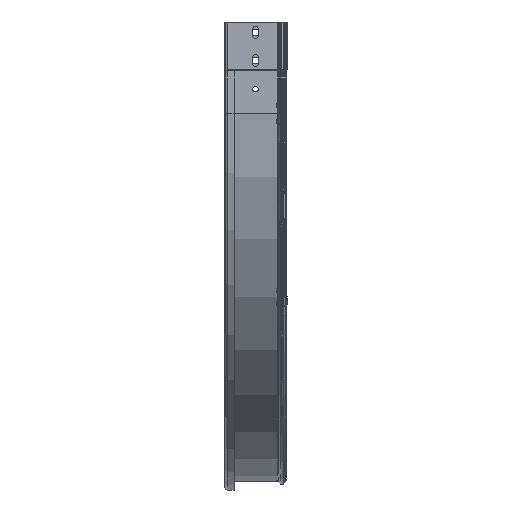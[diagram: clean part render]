
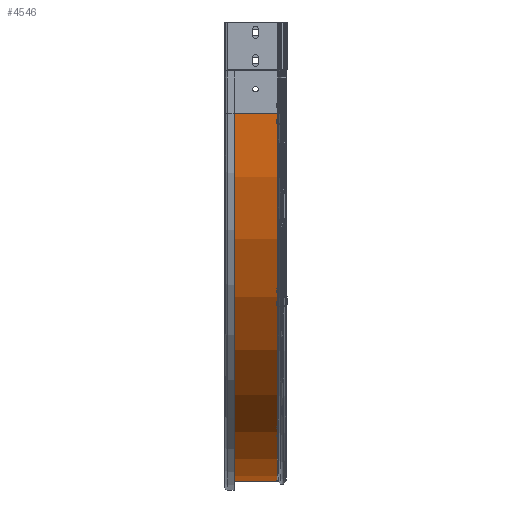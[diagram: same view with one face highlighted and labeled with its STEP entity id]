
A CAD part, left-side view. The second image highlights one B-rep face of the part: STEP entity #4546.
In plain terms, the highlighted cylindrical face has radius 601.5 mm (diameter 1203 mm), a partial arc.
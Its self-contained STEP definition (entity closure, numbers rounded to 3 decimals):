
#63 = VERTEX_POINT ( 'NONE', #11038 ) ;
#505 = CARTESIAN_POINT ( 'NONE',  ( 600., 0., -150. ) ) ;
#638 = DIRECTION ( 'NONE',  ( 0., 1., 0. ) ) ;
#1364 = FACE_OUTER_BOUND ( 'NONE', #5666, .T. ) ;
#1528 = ORIENTED_EDGE ( 'NONE', *, *, #11746, .T. ) ;
#1649 = DIRECTION ( 'NONE',  ( 0., 1., 0. ) ) ;
#2276 = VECTOR ( 'NONE', #11637, 1000. ) ;
#2396 = DIRECTION ( 'NONE',  ( 0., 1., 0. ) ) ;
#2535 = VERTEX_POINT ( 'NONE', #3223 ) ;
#3195 = CARTESIAN_POINT ( 'NONE',  ( -1.5, 14.067, -150. ) ) ;
#3223 = CARTESIAN_POINT ( 'NONE',  ( -1.5, 96., -150. ) ) ;
#3356 = CIRCLE ( 'NONE', #7038, 601.5 ) ;
#3390 = DIRECTION ( 'NONE',  ( 0., 0., 1. ) ) ;
#4047 = CYLINDRICAL_SURFACE ( 'NONE', #7142, 601.5 ) ;
#4199 = VERTEX_POINT ( 'NONE', #8931 ) ;
#4546 = ADVANCED_FACE ( 'NONE', ( #1364 ), #4047, .T. ) ;
#4583 = EDGE_CURVE ( 'NONE', #2535, #11334, #7833, .T. ) ;
#5076 = ORIENTED_EDGE ( 'NONE', *, *, #4583, .F. ) ;
#5151 = EDGE_CURVE ( 'NONE', #4199, #63, #9971, .T. ) ;
#5338 = ORIENTED_EDGE ( 'NONE', *, *, #5151, .F. ) ;
#5429 = CARTESIAN_POINT ( 'NONE',  ( 600., 14.067, -751.5 ) ) ;
#5568 = CARTESIAN_POINT ( 'NONE',  ( -1.5, 14.067, -150. ) ) ;
#5666 = EDGE_LOOP ( 'NONE', ( #9120, #5338, #1528, #5076 ) ) ;
#6722 = CIRCLE ( 'NONE', #10021, 601.5 ) ;
#7038 = AXIS2_PLACEMENT_3D ( 'NONE', #9878, #638, #3390 ) ;
#7142 = AXIS2_PLACEMENT_3D ( 'NONE', #505, #2396, #8798 ) ;
#7387 = DIRECTION ( 'NONE',  ( 0., 0., 1. ) ) ;
#7833 = LINE ( 'NONE', #3195, #2276 ) ;
#8632 = VECTOR ( 'NONE', #1649, 1000. ) ;
#8798 = DIRECTION ( 'NONE',  ( 0., 0., 1. ) ) ;
#8931 = CARTESIAN_POINT ( 'NONE',  ( 600., 14.067, -751.5 ) ) ;
#9120 = ORIENTED_EDGE ( 'NONE', *, *, #11281, .F. ) ;
#9878 = CARTESIAN_POINT ( 'NONE',  ( 600., 96., -150. ) ) ;
#9971 = LINE ( 'NONE', #5429, #8632 ) ;
#10021 = AXIS2_PLACEMENT_3D ( 'NONE', #11996, #10158, #7387 ) ;
#10158 = DIRECTION ( 'NONE',  ( 0., 1., 0. ) ) ;
#11038 = CARTESIAN_POINT ( 'NONE',  ( 600., 96., -751.5 ) ) ;
#11281 = EDGE_CURVE ( 'NONE', #63, #2535, #3356, .T. ) ;
#11334 = VERTEX_POINT ( 'NONE', #5568 ) ;
#11637 = DIRECTION ( 'NONE',  ( 0., -1., 0. ) ) ;
#11746 = EDGE_CURVE ( 'NONE', #4199, #11334, #6722, .T. ) ;
#11996 = CARTESIAN_POINT ( 'NONE',  ( 600., 14.067, -150. ) ) ;
